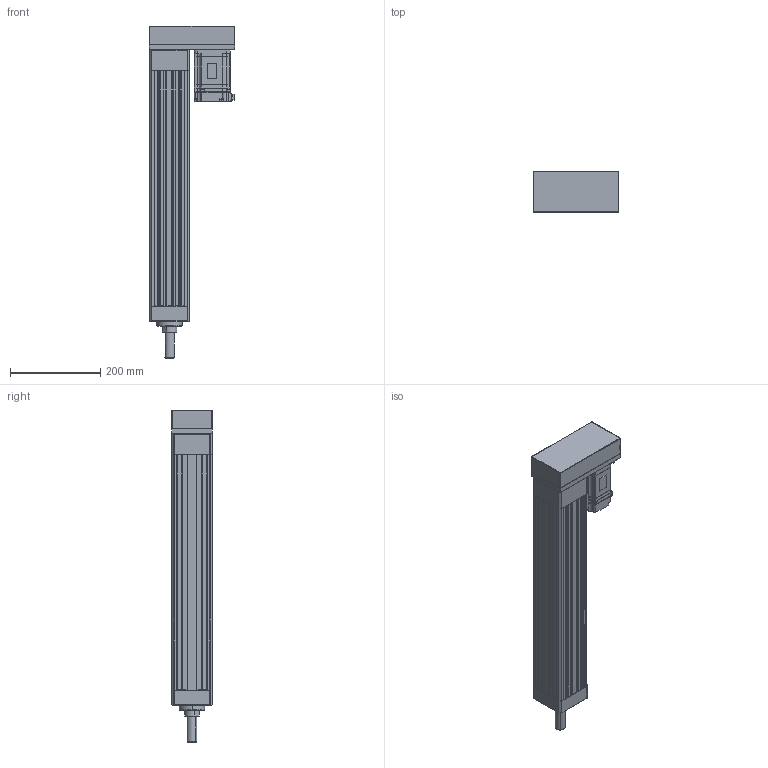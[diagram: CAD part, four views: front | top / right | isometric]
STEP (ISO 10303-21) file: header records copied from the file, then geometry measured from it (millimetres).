
FILE_DESCRIPTION (( 'STEP AP203' ), '1' );
FILE_NAME ('ANS090R-P400-05(10)(20)-W75-M.STEP', '2019-03-02T10:22:11', ( 'user' ), ( '' ), 'SwSTEP 2.0', 'SolidWorks 2013', '' );
FILE_SCHEMA (( 'CONFIG_CONTROL_DESIGN' ));
Length unit declared in the file: millimetre
Products named in the file (4): ANS090R P400 VER2; SGMJV_08A_A21; ANS090 ROD ST400-M; ANS090R-P400-05(10)(20)-W75-M
Assembly tree (3 placements, depth 2):
  ANS090R-P400-05(10)(20)-W75-M
    ANS090R P400 VER2
    SGMJV_08A_A21
    ANS090 ROD ST400-M
Bounding box: 190 x 90 x 736 mm (x, y, z)
Volume: 3555942 mm3; surface area: 683160.5 mm2
Topology: 3 solids, 3 shells, 1078 faces, 2857 edges, 1838 vertices
Faces by surface type: plane 646, cylinder 346, cone 74, bspline 8, sphere 4
Entity records: 33969 total; most frequent: CARTESIAN_POINT 6617, ORIENTED_EDGE 5674, DIRECTION 5555, EDGE_CURVE 2837, LINE 1987, VECTOR 1987, VERTEX_POINT 1838, AXIS2_PLACEMENT_3D 1784
